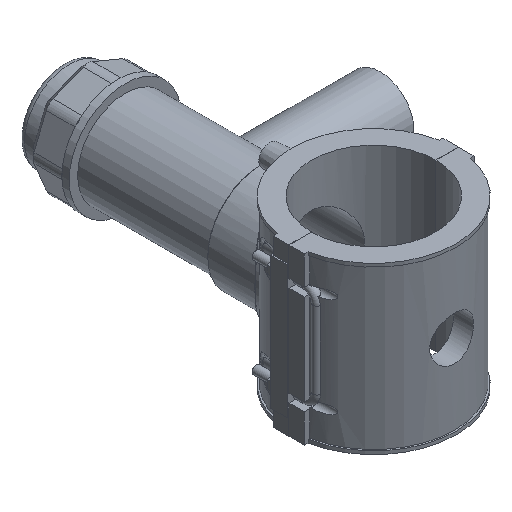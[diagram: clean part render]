
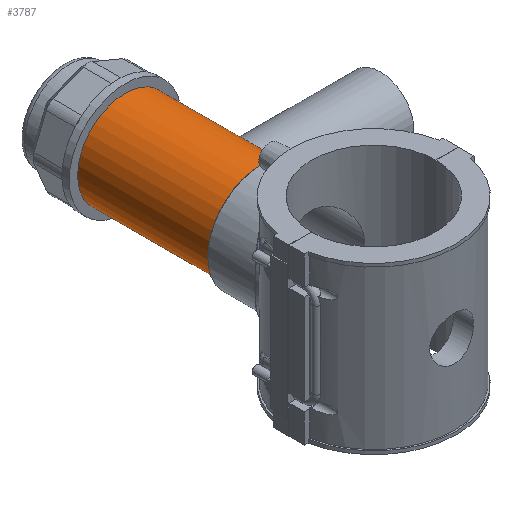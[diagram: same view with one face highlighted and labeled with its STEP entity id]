
A CAD part, isometric view. The second image highlights one B-rep face of the part: STEP entity #3787.
In plain terms, the highlighted cylindrical face has radius 33.928 mm (diameter 67.856 mm), a full revolution.
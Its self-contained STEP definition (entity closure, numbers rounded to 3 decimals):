
#53=FACE_BOUND('',#560,.T.);
#82=B_SPLINE_CURVE_WITH_KNOTS('',3,(#5619,#5620,#5621,#5622,#5623,#5624,
#5625,#5626,#5627,#5628,#5629,#5630,#5631,#5632,#5633,#5634,#5635,#5636),
 .UNSPECIFIED.,.F.,.F.,(4,2,2,2,2,2,2,2,4),(0.,0.479,0.958,
1.437,1.916,2.388,2.859,3.331,
3.803),.UNSPECIFIED.);
#83=B_SPLINE_CURVE_WITH_KNOTS('',3,(#5637,#5638,#5639,#5640,#5641,#5642,
#5643,#5644,#5645,#5646,#5647,#5648,#5649,#5650,#5651,#5652,#5653,#5654,
#5655,#5656,#5657,#5658,#5659,#5660,#5661,#5662,#5663,#5664,#5665,#5666,
#5667,#5668,#5669,#5670,#5671,#5672,#5673,#5674,#5675,#5676,#5677,#5678,
#5679,#5680,#5681,#5682,#5683,#5684,#5685,#5686),.UNSPECIFIED.,.F.,.F.,
(4,2,2,2,2,2,2,2,2,2,2,2,2,2,2,2,2,2,2,2,2,2,2,2,4),(3.803,4.274,
4.746,5.217,5.689,6.168,6.647,
7.126,7.605,8.084,8.563,9.042,
9.521,9.993,10.464,10.936,11.408,
11.879,12.351,12.822,13.294,13.773,
14.252,14.731,15.21),.UNSPECIFIED.);
#344=FACE_OUTER_BOUND('',#559,.T.);
#559=EDGE_LOOP('',(#2788,#2789,#2790,#2791,#2792,#2793));
#560=EDGE_LOOP('',(#2794,#2795));
#779=CIRCLE('',#4052,33.928);
#780=CIRCLE('',#4053,33.928);
#793=CIRCLE('',#4080,33.928);
#794=CIRCLE('',#4081,33.928);
#956=LINE('',#5936,#1297);
#1297=VECTOR('',#4630,33.928);
#1582=VERTEX_POINT('',#5616);
#1583=VERTEX_POINT('',#5618);
#1645=VERTEX_POINT('',#5877);
#1646=VERTEX_POINT('',#5878);
#1660=VERTEX_POINT('',#5932);
#1661=VERTEX_POINT('',#5933);
#1960=EDGE_CURVE('',#1583,#1582,#82,.T.);
#1961=EDGE_CURVE('',#1582,#1583,#83,.T.);
#2056=EDGE_CURVE('',#1645,#1646,#779,.T.);
#2057=EDGE_CURVE('',#1646,#1645,#780,.T.);
#2082=EDGE_CURVE('',#1660,#1661,#793,.T.);
#2083=EDGE_CURVE('',#1661,#1660,#794,.T.);
#2084=EDGE_CURVE('',#1661,#1646,#956,.T.);
#2788=ORIENTED_EDGE('',*,*,#2082,.F.);
#2789=ORIENTED_EDGE('',*,*,#2083,.F.);
#2790=ORIENTED_EDGE('',*,*,#2084,.T.);
#2791=ORIENTED_EDGE('',*,*,#2057,.T.);
#2792=ORIENTED_EDGE('',*,*,#2056,.T.);
#2793=ORIENTED_EDGE('',*,*,#2084,.F.);
#2794=ORIENTED_EDGE('',*,*,#1960,.T.);
#2795=ORIENTED_EDGE('',*,*,#1961,.T.);
#3691=CYLINDRICAL_SURFACE('',#4079,33.928);
#3787=ADVANCED_FACE('',(#344,#53),#3691,.T.);
#4052=AXIS2_PLACEMENT_3D('',#5879,#4558,#4559);
#4053=AXIS2_PLACEMENT_3D('',#5880,#4560,#4561);
#4079=AXIS2_PLACEMENT_3D('',#5931,#4624,#4625);
#4080=AXIS2_PLACEMENT_3D('',#5934,#4626,#4627);
#4081=AXIS2_PLACEMENT_3D('',#5935,#4628,#4629);
#4558=DIRECTION('center_axis',(0.,1.,0.));
#4559=DIRECTION('ref_axis',(1.,0.,0.));
#4560=DIRECTION('center_axis',(0.,1.,0.));
#4561=DIRECTION('ref_axis',(1.,0.,0.));
#4624=DIRECTION('center_axis',(0.,1.,0.));
#4625=DIRECTION('ref_axis',(0.,0.,1.));
#4626=DIRECTION('center_axis',(0.,1.,0.));
#4627=DIRECTION('ref_axis',(1.,0.,0.));
#4628=DIRECTION('center_axis',(0.,1.,0.));
#4629=DIRECTION('ref_axis',(1.,0.,0.));
#4630=DIRECTION('',(0.,-1.,0.));
#5616=CARTESIAN_POINT('',(33.928,85.324,0.));
#5618=CARTESIAN_POINT('',(23.931,109.374,-24.05));
#5619=CARTESIAN_POINT('Ctrl Pts',(23.931,109.374,-24.05));
#5620=CARTESIAN_POINT('Ctrl Pts',(23.931,107.777,-24.05));
#5621=CARTESIAN_POINT('Ctrl Pts',(24.096,106.164,-23.889));
#5622=CARTESIAN_POINT('Ctrl Pts',(24.714,103.01,-23.249));
#5623=CARTESIAN_POINT('Ctrl Pts',(25.166,101.47,-22.769));
#5624=CARTESIAN_POINT('Ctrl Pts',(26.233,98.543,-21.532));
#5625=CARTESIAN_POINT('Ctrl Pts',(26.847,97.154,-20.772));
#5626=CARTESIAN_POINT('Ctrl Pts',(28.108,94.589,-19.032));
#5627=CARTESIAN_POINT('Ctrl Pts',(28.753,93.413,-18.051));
#5628=CARTESIAN_POINT('Ctrl Pts',(29.954,91.339,-15.977));
#5629=CARTESIAN_POINT('Ctrl Pts',(30.557,90.361,-14.81));
#5630=CARTESIAN_POINT('Ctrl Pts',(31.672,88.616,-12.244));
#5631=CARTESIAN_POINT('Ctrl Pts',(32.184,87.849,-10.846));
#5632=CARTESIAN_POINT('Ctrl Pts',(33.032,86.601,-7.897));
#5633=CARTESIAN_POINT('Ctrl Pts',(33.368,86.119,-6.342));
#5634=CARTESIAN_POINT('Ctrl Pts',(33.816,85.481,-3.18));
#5635=CARTESIAN_POINT('Ctrl Pts',(33.928,85.324,-1.572));
#5636=CARTESIAN_POINT('Ctrl Pts',(33.928,85.324,0.));
#5637=CARTESIAN_POINT('Ctrl Pts',(33.928,85.324,0.));
#5638=CARTESIAN_POINT('Ctrl Pts',(33.928,85.324,1.572));
#5639=CARTESIAN_POINT('Ctrl Pts',(33.816,85.481,3.18));
#5640=CARTESIAN_POINT('Ctrl Pts',(33.368,86.119,6.342));
#5641=CARTESIAN_POINT('Ctrl Pts',(33.032,86.601,7.897));
#5642=CARTESIAN_POINT('Ctrl Pts',(32.184,87.849,10.846));
#5643=CARTESIAN_POINT('Ctrl Pts',(31.672,88.616,12.244));
#5644=CARTESIAN_POINT('Ctrl Pts',(30.557,90.361,14.81));
#5645=CARTESIAN_POINT('Ctrl Pts',(29.954,91.339,15.977));
#5646=CARTESIAN_POINT('Ctrl Pts',(28.753,93.413,18.051));
#5647=CARTESIAN_POINT('Ctrl Pts',(28.108,94.589,19.032));
#5648=CARTESIAN_POINT('Ctrl Pts',(26.847,97.154,20.772));
#5649=CARTESIAN_POINT('Ctrl Pts',(26.233,98.543,21.532));
#5650=CARTESIAN_POINT('Ctrl Pts',(25.166,101.47,22.769));
#5651=CARTESIAN_POINT('Ctrl Pts',(24.714,103.01,23.249));
#5652=CARTESIAN_POINT('Ctrl Pts',(24.096,106.164,23.889));
#5653=CARTESIAN_POINT('Ctrl Pts',(23.931,107.777,24.05));
#5654=CARTESIAN_POINT('Ctrl Pts',(23.931,110.971,24.05));
#5655=CARTESIAN_POINT('Ctrl Pts',(24.096,112.584,23.889));
#5656=CARTESIAN_POINT('Ctrl Pts',(24.714,115.738,23.249));
#5657=CARTESIAN_POINT('Ctrl Pts',(25.166,117.278,22.769));
#5658=CARTESIAN_POINT('Ctrl Pts',(26.233,120.205,21.532));
#5659=CARTESIAN_POINT('Ctrl Pts',(26.847,121.594,20.772));
#5660=CARTESIAN_POINT('Ctrl Pts',(28.108,124.159,19.032));
#5661=CARTESIAN_POINT('Ctrl Pts',(28.753,125.335,18.051));
#5662=CARTESIAN_POINT('Ctrl Pts',(29.954,127.409,15.977));
#5663=CARTESIAN_POINT('Ctrl Pts',(30.557,128.387,14.81));
#5664=CARTESIAN_POINT('Ctrl Pts',(31.672,130.132,12.244));
#5665=CARTESIAN_POINT('Ctrl Pts',(32.184,130.899,10.846));
#5666=CARTESIAN_POINT('Ctrl Pts',(33.032,132.147,7.897));
#5667=CARTESIAN_POINT('Ctrl Pts',(33.368,132.629,6.342));
#5668=CARTESIAN_POINT('Ctrl Pts',(33.816,133.267,3.18));
#5669=CARTESIAN_POINT('Ctrl Pts',(33.928,133.424,1.572));
#5670=CARTESIAN_POINT('Ctrl Pts',(33.928,133.424,-1.572));
#5671=CARTESIAN_POINT('Ctrl Pts',(33.816,133.267,-3.18));
#5672=CARTESIAN_POINT('Ctrl Pts',(33.368,132.629,-6.342));
#5673=CARTESIAN_POINT('Ctrl Pts',(33.032,132.147,-7.897));
#5674=CARTESIAN_POINT('Ctrl Pts',(32.184,130.899,-10.846));
#5675=CARTESIAN_POINT('Ctrl Pts',(31.672,130.132,-12.244));
#5676=CARTESIAN_POINT('Ctrl Pts',(30.557,128.387,-14.81));
#5677=CARTESIAN_POINT('Ctrl Pts',(29.954,127.409,-15.977));
#5678=CARTESIAN_POINT('Ctrl Pts',(28.753,125.335,-18.051));
#5679=CARTESIAN_POINT('Ctrl Pts',(28.108,124.159,-19.032));
#5680=CARTESIAN_POINT('Ctrl Pts',(26.847,121.594,-20.772));
#5681=CARTESIAN_POINT('Ctrl Pts',(26.233,120.205,-21.532));
#5682=CARTESIAN_POINT('Ctrl Pts',(25.166,117.278,-22.769));
#5683=CARTESIAN_POINT('Ctrl Pts',(24.714,115.738,-23.249));
#5684=CARTESIAN_POINT('Ctrl Pts',(24.096,112.584,-23.889));
#5685=CARTESIAN_POINT('Ctrl Pts',(23.931,110.971,-24.05));
#5686=CARTESIAN_POINT('Ctrl Pts',(23.931,109.374,-24.05));
#5877=CARTESIAN_POINT('',(0.,81.227,33.928));
#5878=CARTESIAN_POINT('',(0.,81.227,-33.928));
#5879=CARTESIAN_POINT('Origin',(0.,81.227,0.));
#5880=CARTESIAN_POINT('Origin',(0.,81.227,0.));
#5931=CARTESIAN_POINT('Origin',(0.,129.178,0.));
#5932=CARTESIAN_POINT('',(0.,177.129,33.928));
#5933=CARTESIAN_POINT('',(0.,177.129,-33.928));
#5934=CARTESIAN_POINT('Origin',(0.,177.129,0.));
#5935=CARTESIAN_POINT('Origin',(0.,177.129,0.));
#5936=CARTESIAN_POINT('',(0.,129.178,-33.928));
